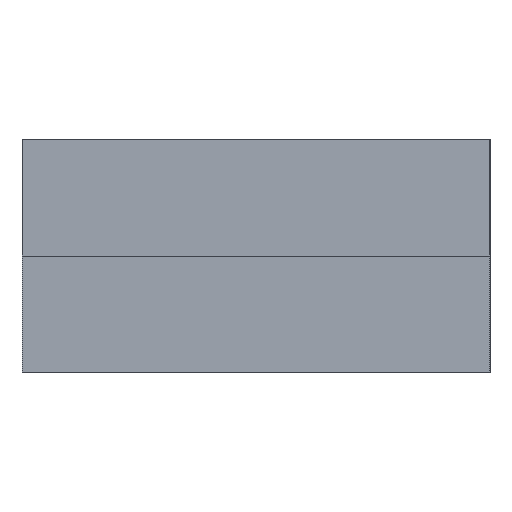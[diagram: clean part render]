
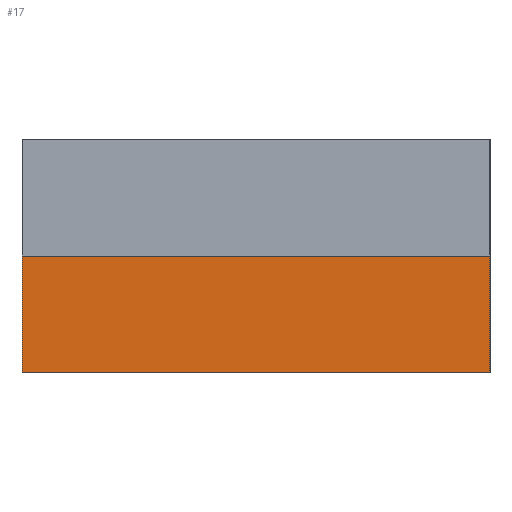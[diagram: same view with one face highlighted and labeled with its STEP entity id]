
A CAD part, left-side view. The second image highlights one B-rep face of the part: STEP entity #17.
In plain terms, the highlighted planar face has unit normal (-1, 0, 0).
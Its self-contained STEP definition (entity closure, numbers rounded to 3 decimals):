
#17 = ADVANCED_FACE('',(#18),#32,.F.);
#18 = FACE_BOUND('',#19,.F.);
#19 = EDGE_LOOP('',(#20,#55,#83,#111));
#20 = ORIENTED_EDGE('',*,*,#21,.F.);
#21 = EDGE_CURVE('',#22,#24,#26,.T.);
#22 = VERTEX_POINT('',#23);
#23 = CARTESIAN_POINT('',(0.,0.,0.));
#24 = VERTEX_POINT('',#25);
#25 = CARTESIAN_POINT('',(0.,0.,5.));
#26 = SURFACE_CURVE('',#27,(#31,#43),.PCURVE_S1.);
#27 = LINE('',#28,#29);
#28 = CARTESIAN_POINT('',(0.,0.,0.));
#29 = VECTOR('',#30,1.);
#30 = DIRECTION('',(0.,0.,1.));
#31 = PCURVE('',#32,#37);
#32 = PLANE('',#33);
#33 = AXIS2_PLACEMENT_3D('',#34,#35,#36);
#34 = CARTESIAN_POINT('',(0.,0.,0.));
#35 = DIRECTION('',(1.,0.,-0.));
#36 = DIRECTION('',(0.,0.,1.));
#37 = DEFINITIONAL_REPRESENTATION('',(#38),#42);
#38 = LINE('',#39,#40);
#39 = CARTESIAN_POINT('',(0.,0.));
#40 = VECTOR('',#41,1.);
#41 = DIRECTION('',(1.,0.));
#42 = ( GEOMETRIC_REPRESENTATION_CONTEXT(2) 
PARAMETRIC_REPRESENTATION_CONTEXT() REPRESENTATION_CONTEXT('2D SPACE',''
  ) );
#43 = PCURVE('',#44,#49);
#44 = PLANE('',#45);
#45 = AXIS2_PLACEMENT_3D('',#46,#47,#48);
#46 = CARTESIAN_POINT('',(0.,0.,0.));
#47 = DIRECTION('',(-0.,1.,0.));
#48 = DIRECTION('',(0.,0.,1.));
#49 = DEFINITIONAL_REPRESENTATION('',(#50),#54);
#50 = LINE('',#51,#52);
#51 = CARTESIAN_POINT('',(0.,0.));
#52 = VECTOR('',#53,1.);
#53 = DIRECTION('',(1.,0.));
#54 = ( GEOMETRIC_REPRESENTATION_CONTEXT(2) 
PARAMETRIC_REPRESENTATION_CONTEXT() REPRESENTATION_CONTEXT('2D SPACE',''
  ) );
#55 = ORIENTED_EDGE('',*,*,#56,.T.);
#56 = EDGE_CURVE('',#22,#57,#59,.T.);
#57 = VERTEX_POINT('',#58);
#58 = CARTESIAN_POINT('',(0.,20.,0.));
#59 = SURFACE_CURVE('',#60,(#64,#71),.PCURVE_S1.);
#60 = LINE('',#61,#62);
#61 = CARTESIAN_POINT('',(0.,0.,0.));
#62 = VECTOR('',#63,1.);
#63 = DIRECTION('',(-0.,1.,0.));
#64 = PCURVE('',#32,#65);
#65 = DEFINITIONAL_REPRESENTATION('',(#66),#70);
#66 = LINE('',#67,#68);
#67 = CARTESIAN_POINT('',(0.,0.));
#68 = VECTOR('',#69,1.);
#69 = DIRECTION('',(0.,-1.));
#70 = ( GEOMETRIC_REPRESENTATION_CONTEXT(2) 
PARAMETRIC_REPRESENTATION_CONTEXT() REPRESENTATION_CONTEXT('2D SPACE',''
  ) );
#71 = PCURVE('',#72,#77);
#72 = PLANE('',#73);
#73 = AXIS2_PLACEMENT_3D('',#74,#75,#76);
#74 = CARTESIAN_POINT('',(0.,0.,0.));
#75 = DIRECTION('',(0.,0.,1.));
#76 = DIRECTION('',(1.,0.,-0.));
#77 = DEFINITIONAL_REPRESENTATION('',(#78),#82);
#78 = LINE('',#79,#80);
#79 = CARTESIAN_POINT('',(0.,0.));
#80 = VECTOR('',#81,1.);
#81 = DIRECTION('',(0.,1.));
#82 = ( GEOMETRIC_REPRESENTATION_CONTEXT(2) 
PARAMETRIC_REPRESENTATION_CONTEXT() REPRESENTATION_CONTEXT('2D SPACE',''
  ) );
#83 = ORIENTED_EDGE('',*,*,#84,.T.);
#84 = EDGE_CURVE('',#57,#85,#87,.T.);
#85 = VERTEX_POINT('',#86);
#86 = CARTESIAN_POINT('',(0.,20.,5.));
#87 = SURFACE_CURVE('',#88,(#92,#99),.PCURVE_S1.);
#88 = LINE('',#89,#90);
#89 = CARTESIAN_POINT('',(0.,20.,0.));
#90 = VECTOR('',#91,1.);
#91 = DIRECTION('',(0.,0.,1.));
#92 = PCURVE('',#32,#93);
#93 = DEFINITIONAL_REPRESENTATION('',(#94),#98);
#94 = LINE('',#95,#96);
#95 = CARTESIAN_POINT('',(0.,-20.));
#96 = VECTOR('',#97,1.);
#97 = DIRECTION('',(1.,0.));
#98 = ( GEOMETRIC_REPRESENTATION_CONTEXT(2) 
PARAMETRIC_REPRESENTATION_CONTEXT() REPRESENTATION_CONTEXT('2D SPACE',''
  ) );
#99 = PCURVE('',#100,#105);
#100 = PLANE('',#101);
#101 = AXIS2_PLACEMENT_3D('',#102,#103,#104);
#102 = CARTESIAN_POINT('',(0.,20.,0.));
#103 = DIRECTION('',(-0.,1.,0.));
#104 = DIRECTION('',(0.,0.,1.));
#105 = DEFINITIONAL_REPRESENTATION('',(#106),#110);
#106 = LINE('',#107,#108);
#107 = CARTESIAN_POINT('',(0.,0.));
#108 = VECTOR('',#109,1.);
#109 = DIRECTION('',(1.,0.));
#110 = ( GEOMETRIC_REPRESENTATION_CONTEXT(2) 
PARAMETRIC_REPRESENTATION_CONTEXT() REPRESENTATION_CONTEXT('2D SPACE',''
  ) );
#111 = ORIENTED_EDGE('',*,*,#112,.F.);
#112 = EDGE_CURVE('',#24,#85,#113,.T.);
#113 = SURFACE_CURVE('',#114,(#118,#125),.PCURVE_S1.);
#114 = LINE('',#115,#116);
#115 = CARTESIAN_POINT('',(0.,0.,5.));
#116 = VECTOR('',#117,1.);
#117 = DIRECTION('',(-0.,1.,0.));
#118 = PCURVE('',#32,#119);
#119 = DEFINITIONAL_REPRESENTATION('',(#120),#124);
#120 = LINE('',#121,#122);
#121 = CARTESIAN_POINT('',(5.,0.));
#122 = VECTOR('',#123,1.);
#123 = DIRECTION('',(0.,-1.));
#124 = ( GEOMETRIC_REPRESENTATION_CONTEXT(2) 
PARAMETRIC_REPRESENTATION_CONTEXT() REPRESENTATION_CONTEXT('2D SPACE',''
  ) );
#125 = PCURVE('',#126,#131);
#126 = PLANE('',#127);
#127 = AXIS2_PLACEMENT_3D('',#128,#129,#130);
#128 = CARTESIAN_POINT('',(0.,0.,5.));
#129 = DIRECTION('',(0.,0.,1.));
#130 = DIRECTION('',(1.,0.,-0.));
#131 = DEFINITIONAL_REPRESENTATION('',(#132),#136);
#132 = LINE('',#133,#134);
#133 = CARTESIAN_POINT('',(0.,0.));
#134 = VECTOR('',#135,1.);
#135 = DIRECTION('',(0.,1.));
#136 = ( GEOMETRIC_REPRESENTATION_CONTEXT(2) 
PARAMETRIC_REPRESENTATION_CONTEXT() REPRESENTATION_CONTEXT('2D SPACE',''
  ) );
